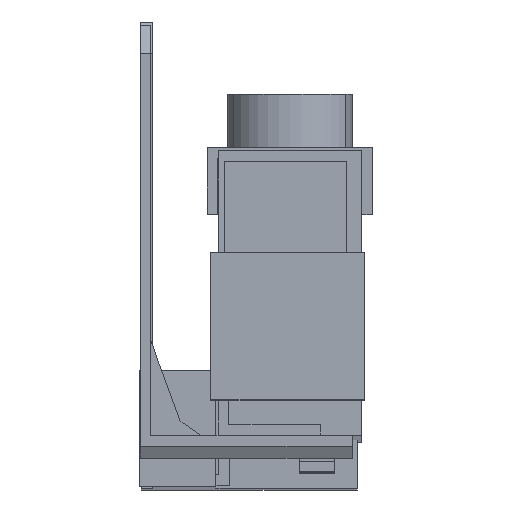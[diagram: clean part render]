
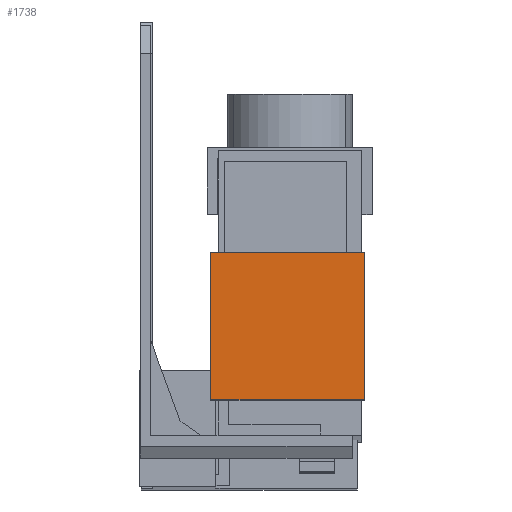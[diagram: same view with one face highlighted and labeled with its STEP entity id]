
A CAD part, front view. The second image highlights one B-rep face of the part: STEP entity #1738.
In plain terms, the highlighted planar face has unit normal (0, -1, 0.003).
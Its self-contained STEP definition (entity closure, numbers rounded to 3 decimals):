
#378 = VERTEX_POINT ( 'NONE', #1650 ) ;
#379 = VERTEX_POINT ( 'NONE', #1649 ) ;
#382 = VERTEX_POINT ( 'NONE', #1646 ) ;
#383 = VERTEX_POINT ( 'NONE', #1645 ) ;
#951 = EDGE_LOOP ( 'NONE', ( #3588, #3589, #3590, #3591 ) ) ;
#1354 = PLANE ( 'NONE',  #2215 ) ;
#1356 = CARTESIAN_POINT ( 'NONE',  ( 9.3, -31.509, -40.315 ) ) ;
#1364 = DIRECTION ( 'NONE',  ( 0., -1., 0.003 ) ) ;
#1365 = DIRECTION ( 'NONE',  ( -1., 0., 0. ) ) ;
#1645 = CARTESIAN_POINT ( 'NONE',  ( 31.95, -31.509, -40.315 ) ) ;
#1646 = CARTESIAN_POINT ( 'NONE',  ( 10.05, -31.509, -40.315 ) ) ;
#1649 = CARTESIAN_POINT ( 'NONE',  ( 31.95, -31.452, -19.316 ) ) ;
#1650 = CARTESIAN_POINT ( 'NONE',  ( 10.05, -31.452, -19.316 ) ) ;
#1738 = ADVANCED_FACE ( 'NONE', ( #3718 ), #1354, .T. ) ;
#1846 = EDGE_CURVE ( 'NONE', #378, #379, #3880, .T. ) ;
#1861 = EDGE_CURVE ( 'NONE', #382, #378, #3895, .T. ) ;
#1982 = EDGE_CURVE ( 'NONE', #382, #383, #4053, .T. ) ;
#2215 = AXIS2_PLACEMENT_3D ( 'NONE', #1356, #1364, #1365 ) ;
#2494 = EDGE_CURVE ( 'NONE', #379, #383, #5859, .T. ) ;
#3588 = ORIENTED_EDGE ( 'NONE', *, *, #1846, .F. ) ;
#3589 = ORIENTED_EDGE ( 'NONE', *, *, #1861, .F. ) ;
#3590 = ORIENTED_EDGE ( 'NONE', *, *, #1982, .T. ) ;
#3591 = ORIENTED_EDGE ( 'NONE', *, *, #2494, .F. ) ;
#3718 = FACE_OUTER_BOUND ( 'NONE', #951, .T. ) ;
#3880 = LINE ( 'NONE', #4221, #3883 ) ;
#3883 = VECTOR ( 'NONE', #4222, 1000. ) ;
#3895 = LINE ( 'NONE', #4242, #3899 ) ;
#3899 = VECTOR ( 'NONE', #4245, 1000. ) ;
#4050 = VECTOR ( 'NONE', #4439, 1000. ) ;
#4053 = LINE ( 'NONE', #4433, #4050 ) ;
#4221 = CARTESIAN_POINT ( 'NONE',  ( 9.3, -31.452, -19.316 ) ) ;
#4222 = DIRECTION ( 'NONE',  ( 1., 0., 0. ) ) ;
#4242 = CARTESIAN_POINT ( 'NONE',  ( 10.05, -31.509, -40.315 ) ) ;
#4245 = DIRECTION ( 'NONE',  ( 0., 0.003, 1. ) ) ;
#4433 = CARTESIAN_POINT ( 'NONE',  ( 9.3, -31.509, -40.315 ) ) ;
#4439 = DIRECTION ( 'NONE',  ( 1., 0., 0. ) ) ;
#5261 = CARTESIAN_POINT ( 'NONE',  ( 31.95, -31.452, -19.316 ) ) ;
#5262 = DIRECTION ( 'NONE',  ( 0., -0.003, -1. ) ) ;
#5858 = VECTOR ( 'NONE', #5262, 1000. ) ;
#5859 = LINE ( 'NONE', #5261, #5858 ) ;
